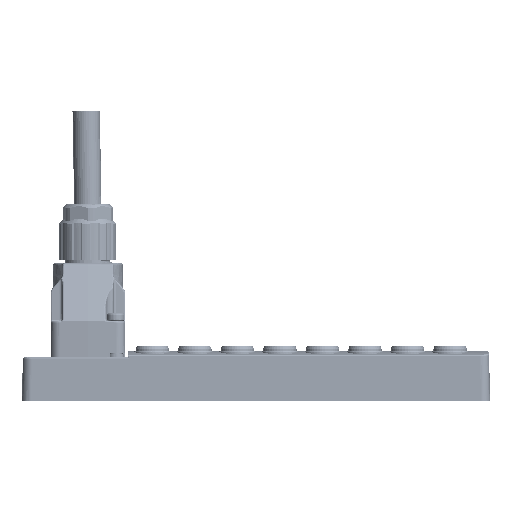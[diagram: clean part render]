
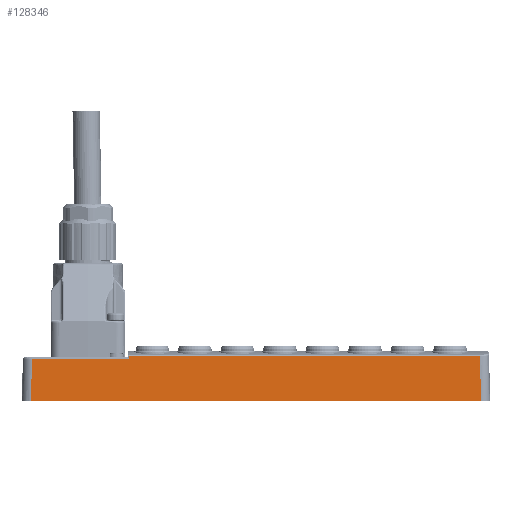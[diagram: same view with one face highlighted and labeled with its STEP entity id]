
A CAD part, front view. The second image highlights one B-rep face of the part: STEP entity #128346.
In plain terms, the highlighted planar face has unit normal (0, -1, 0.018).
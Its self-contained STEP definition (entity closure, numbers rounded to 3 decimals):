
#9198 = DIRECTION ( 'NONE',  ( -1., 0., 0. ) ) ;
#10211 = DIRECTION ( 'NONE',  ( 0., -0.017, -1. ) ) ;
#22578 = LINE ( 'NONE', #135877, #141816 ) ;
#22999 = CARTESIAN_POINT ( 'NONE',  ( -33.33, -22.75, 0. ) ) ;
#23589 = CARTESIAN_POINT ( 'NONE',  ( 87.671, -22.75, 0. ) ) ;
#24277 = CARTESIAN_POINT ( 'NONE',  ( -64.474, -22.49, 14.867 ) ) ;
#39836 = EDGE_CURVE ( 'NONE', #55635, #49512, #43029, .T. ) ;
#41727 = VECTOR ( 'NONE', #9198, 1000. ) ;
#43029 = LINE ( 'NONE', #110348, #76846 ) ;
#49512 = VERTEX_POINT ( 'NONE', #66629 ) ;
#50014 = LINE ( 'NONE', #22999, #95014 ) ;
#51487 = CARTESIAN_POINT ( 'NONE',  ( 87.671, -22.75, 0. ) ) ;
#51886 = EDGE_CURVE ( 'NONE', #133753, #180907, #50014, .T. ) ;
#52554 = DIRECTION ( 'NONE',  ( -1., 0., 0. ) ) ;
#55437 = VECTOR ( 'NONE', #106965, 1000. ) ;
#55635 = VERTEX_POINT ( 'NONE', #107087 ) ;
#66629 = CARTESIAN_POINT ( 'NONE',  ( -28.117, -22.505, 14.009 ) ) ;
#67621 = ORIENTED_EDGE ( 'NONE', *, *, #135279, .T. ) ;
#71297 = DIRECTION ( 'NONE',  ( -0.017, -0.017, -1. ) ) ;
#72738 = CARTESIAN_POINT ( 'NONE',  ( -60.339, -22.75, 0. ) ) ;
#74791 = EDGE_CURVE ( 'NONE', #49512, #157673, #22578, .T. ) ;
#76769 = CARTESIAN_POINT ( 'NONE',  ( -28.117, -22.49, 14.867 ) ) ;
#76846 = VECTOR ( 'NONE', #80194, 1000. ) ;
#80194 = DIRECTION ( 'NONE',  ( 1., 0., 0. ) ) ;
#81979 = PLANE ( 'NONE',  #93191 ) ;
#84579 = ORIENTED_EDGE ( 'NONE', *, *, #51886, .F. ) ;
#84649 = ORIENTED_EDGE ( 'NONE', *, *, #39836, .F. ) ;
#85668 = FACE_OUTER_BOUND ( 'NONE', #86758, .T. ) ;
#86758 = EDGE_LOOP ( 'NONE', ( #67621, #144410, #108405, #84649, #117748, #84579 ) ) ;
#90071 = EDGE_CURVE ( 'NONE', #100373, #157673, #95788, .T. ) ;
#93191 = AXIS2_PLACEMENT_3D ( 'NONE', #182494, #168672, #10211 ) ;
#95014 = VECTOR ( 'NONE', #52554, 1000. ) ;
#95788 = LINE ( 'NONE', #24277, #41727 ) ;
#100373 = VERTEX_POINT ( 'NONE', #125980 ) ;
#106965 = DIRECTION ( 'NONE',  ( -0.017, 0.017, 1. ) ) ;
#107087 = CARTESIAN_POINT ( 'NONE',  ( -60.094, -22.505, 14.009 ) ) ;
#108405 = ORIENTED_EDGE ( 'NONE', *, *, #74791, .F. ) ;
#110348 = CARTESIAN_POINT ( 'NONE',  ( 226.937, -22.505, 14.009 ) ) ;
#115862 = EDGE_CURVE ( 'NONE', #55635, #180907, #163604, .T. ) ;
#117748 = ORIENTED_EDGE ( 'NONE', *, *, #115862, .T. ) ;
#125980 = CARTESIAN_POINT ( 'NONE',  ( 87.411, -22.49, 14.867 ) ) ;
#128346 = ADVANCED_FACE ( 'NONE', ( #85668 ), #81979, .T. ) ;
#133753 = VERTEX_POINT ( 'NONE', #23589 ) ;
#135279 = EDGE_CURVE ( 'NONE', #133753, #100373, #154439, .T. ) ;
#135877 = CARTESIAN_POINT ( 'NONE',  ( -28.117, -23.134, -22.023 ) ) ;
#141816 = VECTOR ( 'NONE', #164166, 1000. ) ;
#144410 = ORIENTED_EDGE ( 'NONE', *, *, #90071, .T. ) ;
#154439 = LINE ( 'NONE', #51487, #55437 ) ;
#157381 = CARTESIAN_POINT ( 'NONE',  ( -60.094, -22.505, 14.009 ) ) ;
#157673 = VERTEX_POINT ( 'NONE', #76769 ) ;
#163604 = LINE ( 'NONE', #157381, #183799 ) ;
#164166 = DIRECTION ( 'NONE',  ( 0., 0.017, 1. ) ) ;
#168672 = DIRECTION ( 'NONE',  ( 0., -1., 0.017 ) ) ;
#180907 = VERTEX_POINT ( 'NONE', #72738 ) ;
#182494 = CARTESIAN_POINT ( 'NONE',  ( -64.474, -22.75, 0. ) ) ;
#183799 = VECTOR ( 'NONE', #71297, 1000. ) ;
